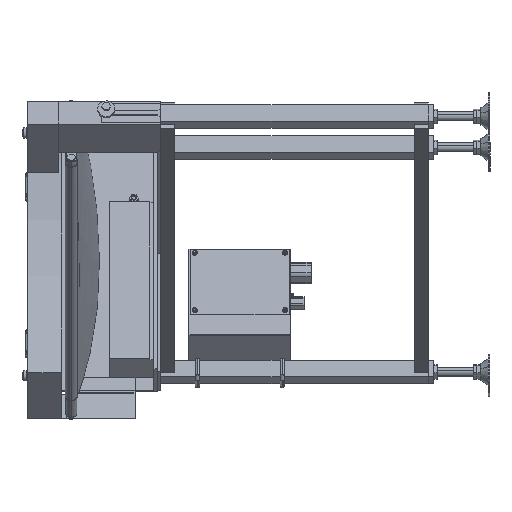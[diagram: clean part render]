
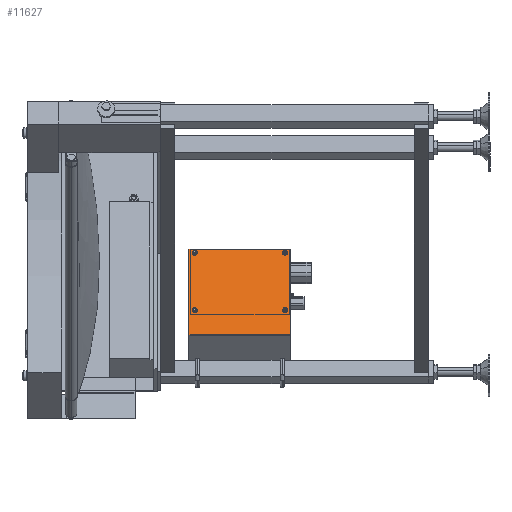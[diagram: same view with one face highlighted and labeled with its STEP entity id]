
A CAD part, left-side view. The second image highlights one B-rep face of the part: STEP entity #11627.
In plain terms, the highlighted planar face has unit normal (-0.924, 0, 0.383).
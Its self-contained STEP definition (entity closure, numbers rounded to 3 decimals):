
#353 = VERTEX_POINT ( 'NONE', #33025 ) ;
#985 = EDGE_CURVE ( 'NONE', #353, #18144, #11307, .T. ) ;
#1094 = CARTESIAN_POINT ( 'NONE',  ( 543.243, -397.5, -261.82 ) ) ;
#1557 = DIRECTION ( 'NONE',  ( 0.383, 0., 0.924 ) ) ;
#2436 = VERTEX_POINT ( 'NONE', #39671 ) ;
#2547 = FACE_BOUND ( 'NONE', #36860, .T. ) ;
#3030 = LINE ( 'NONE', #23860, #19925 ) ;
#3276 = ORIENTED_EDGE ( 'NONE', *, *, #30139, .T. ) ;
#4293 = VERTEX_POINT ( 'NONE', #20476 ) ;
#4422 = CARTESIAN_POINT ( 'NONE',  ( 498.277, -227.5, -370.376 ) ) ;
#4613 = EDGE_CURVE ( 'NONE', #12632, #15845, #38109, .T. ) ;
#5265 = AXIS2_PLACEMENT_3D ( 'NONE', #13578, #9214, #24244 ) ;
#5392 = DIRECTION ( 'NONE',  ( 0.924, 0., -0.383 ) ) ;
#5789 = EDGE_LOOP ( 'NONE', ( #38907, #42132 ) ) ;
#6060 = CIRCLE ( 'NONE', #10450, 4.5 ) ;
#6501 = DIRECTION ( 'NONE',  ( 0.924, 0., -0.383 ) ) ;
#7538 = CARTESIAN_POINT ( 'NONE',  ( 498.277, -387.5, -370.376 ) ) ;
#7996 = CARTESIAN_POINT ( 'NONE',  ( 500., -227.5, -366.218 ) ) ;
#8017 = EDGE_CURVE ( 'NONE', #18144, #353, #12421, .T. ) ;
#8134 = DIRECTION ( 'NONE',  ( 0.924, 0., -0.383 ) ) ;
#8480 = LINE ( 'NONE', #27434, #40782 ) ;
#9214 = DIRECTION ( 'NONE',  ( -0.924, 0., 0.383 ) ) ;
#9430 = ORIENTED_EDGE ( 'NONE', *, *, #20758, .T. ) ;
#9452 = DIRECTION ( 'NONE',  ( 0.924, 0., -0.383 ) ) ;
#9936 = AXIS2_PLACEMENT_3D ( 'NONE', #32355, #20866, #32040 ) ;
#10134 = VERTEX_POINT ( 'NONE', #44658 ) ;
#10450 = AXIS2_PLACEMENT_3D ( 'NONE', #7538, #47423, #14337 ) ;
#11307 = CIRCLE ( 'NONE', #27864, 4.5 ) ;
#11627 = ADVANCED_FACE ( 'NONE', ( #39026, #33263, #2547, #26895, #41340 ), #13261, .T. ) ;
#12109 = CARTESIAN_POINT ( 'NONE',  ( 542.095, -387.5, -264.592 ) ) ;
#12421 = CIRCLE ( 'NONE', #15334, 4.5 ) ;
#12503 = ORIENTED_EDGE ( 'NONE', *, *, #985, .T. ) ;
#12632 = VERTEX_POINT ( 'NONE', #45393 ) ;
#12830 = DIRECTION ( 'NONE',  ( -0.383, 0., -0.924 ) ) ;
#13261 = PLANE ( 'NONE',  #5265 ) ;
#13469 = DIRECTION ( 'NONE',  ( -0.383, 0., -0.924 ) ) ;
#13500 = DIRECTION ( 'NONE',  ( -0.383, 0., -0.924 ) ) ;
#13578 = CARTESIAN_POINT ( 'NONE',  ( 495.407, -397.5, -377.305 ) ) ;
#13776 = CIRCLE ( 'NONE', #36013, 4.5 ) ;
#14337 = DIRECTION ( 'NONE',  ( -0.383, 0., -0.924 ) ) ;
#15334 = AXIS2_PLACEMENT_3D ( 'NONE', #44690, #44535, #29872 ) ;
#15759 = LINE ( 'NONE', #35656, #21452 ) ;
#15845 = VERTEX_POINT ( 'NONE', #16748 ) ;
#15871 = AXIS2_PLACEMENT_3D ( 'NONE', #17493, #6501, #13469 ) ;
#16024 = EDGE_CURVE ( 'NONE', #12632, #33350, #15759, .T. ) ;
#16431 = VERTEX_POINT ( 'NONE', #22426 ) ;
#16602 = DIRECTION ( 'NONE',  ( 0., 1., 0. ) ) ;
#16748 = CARTESIAN_POINT ( 'NONE',  ( 480.1, -217.5, -414.26 ) ) ;
#17493 = CARTESIAN_POINT ( 'NONE',  ( 540.373, -227.5, -268.749 ) ) ;
#17973 = EDGE_CURVE ( 'NONE', #2436, #4293, #13776, .T. ) ;
#18075 = ORIENTED_EDGE ( 'NONE', *, *, #45378, .T. ) ;
#18144 = VERTEX_POINT ( 'NONE', #12109 ) ;
#19154 = AXIS2_PLACEMENT_3D ( 'NONE', #24175, #9452, #13500 ) ;
#19252 = ORIENTED_EDGE ( 'NONE', *, *, #8017, .T. ) ;
#19925 = VECTOR ( 'NONE', #16602, 1000. ) ;
#20476 = CARTESIAN_POINT ( 'NONE',  ( 496.555, -387.5, -374.533 ) ) ;
#20604 = EDGE_LOOP ( 'NONE', ( #33288, #40650, #45836, #22784 ) ) ;
#20758 = EDGE_CURVE ( 'NONE', #46197, #28576, #27148, .T. ) ;
#20866 = DIRECTION ( 'NONE',  ( 0.924, 0., -0.383 ) ) ;
#21452 = VECTOR ( 'NONE', #24623, 1000. ) ;
#22426 = CARTESIAN_POINT ( 'NONE',  ( 543.243, -217.5, -261.82 ) ) ;
#22448 = VECTOR ( 'NONE', #40979, 1000. ) ;
#22784 = ORIENTED_EDGE ( 'NONE', *, *, #16024, .T. ) ;
#23114 = CIRCLE ( 'NONE', #15871, 4.5 ) ;
#23860 = CARTESIAN_POINT ( 'NONE',  ( 543.243, -433.7, -261.82 ) ) ;
#24175 = CARTESIAN_POINT ( 'NONE',  ( 540.373, -227.5, -268.749 ) ) ;
#24244 = DIRECTION ( 'NONE',  ( 0.383, 0., 0.924 ) ) ;
#24623 = DIRECTION ( 'NONE',  ( 0.383, 0., 0.924 ) ) ;
#26895 = FACE_BOUND ( 'NONE', #44636, .T. ) ;
#27148 = CIRCLE ( 'NONE', #9936, 4.5 ) ;
#27434 = CARTESIAN_POINT ( 'NONE',  ( 495.407, -217.5, -377.305 ) ) ;
#27522 = CIRCLE ( 'NONE', #19154, 4.5 ) ;
#27690 = CARTESIAN_POINT ( 'NONE',  ( 542.095, -227.5, -264.592 ) ) ;
#27864 = AXIS2_PLACEMENT_3D ( 'NONE', #30795, #5392, #12830 ) ;
#28576 = VERTEX_POINT ( 'NONE', #7996 ) ;
#28780 = VERTEX_POINT ( 'NONE', #27690 ) ;
#29055 = DIRECTION ( 'NONE',  ( 0.924, 0., -0.383 ) ) ;
#29803 = DIRECTION ( 'NONE',  ( -0.383, 0., -0.924 ) ) ;
#29872 = DIRECTION ( 'NONE',  ( -0.383, 0., -0.924 ) ) ;
#30139 = EDGE_CURVE ( 'NONE', #28780, #10134, #27522, .T. ) ;
#30156 = CARTESIAN_POINT ( 'NONE',  ( 480.1, -562.424, -414.26 ) ) ;
#30795 = CARTESIAN_POINT ( 'NONE',  ( 540.373, -387.5, -268.749 ) ) ;
#30988 = EDGE_CURVE ( 'NONE', #15845, #16431, #8480, .T. ) ;
#31653 = CIRCLE ( 'NONE', #42025, 4.5 ) ;
#32040 = DIRECTION ( 'NONE',  ( -0.383, 0., -0.924 ) ) ;
#32355 = CARTESIAN_POINT ( 'NONE',  ( 498.277, -227.5, -370.376 ) ) ;
#33025 = CARTESIAN_POINT ( 'NONE',  ( 538.651, -387.5, -272.906 ) ) ;
#33263 = FACE_BOUND ( 'NONE', #5789, .T. ) ;
#33288 = ORIENTED_EDGE ( 'NONE', *, *, #36511, .T. ) ;
#33350 = VERTEX_POINT ( 'NONE', #1094 ) ;
#33958 = CARTESIAN_POINT ( 'NONE',  ( 496.555, -227.5, -374.533 ) ) ;
#35656 = CARTESIAN_POINT ( 'NONE',  ( 495.407, -397.5, -377.305 ) ) ;
#36013 = AXIS2_PLACEMENT_3D ( 'NONE', #43421, #29055, #47608 ) ;
#36511 = EDGE_CURVE ( 'NONE', #33350, #16431, #3030, .T. ) ;
#36860 = EDGE_LOOP ( 'NONE', ( #12503, #19252 ) ) ;
#38109 = LINE ( 'NONE', #30156, #22448 ) ;
#38907 = ORIENTED_EDGE ( 'NONE', *, *, #41425, .T. ) ;
#39026 = FACE_OUTER_BOUND ( 'NONE', #20604, .T. ) ;
#39671 = CARTESIAN_POINT ( 'NONE',  ( 500., -387.5, -366.218 ) ) ;
#40650 = ORIENTED_EDGE ( 'NONE', *, *, #30988, .F. ) ;
#40782 = VECTOR ( 'NONE', #1557, 1000. ) ;
#40979 = DIRECTION ( 'NONE',  ( 0., 1., 0. ) ) ;
#41340 = FACE_BOUND ( 'NONE', #43682, .T. ) ;
#41425 = EDGE_CURVE ( 'NONE', #4293, #2436, #6060, .T. ) ;
#41577 = ORIENTED_EDGE ( 'NONE', *, *, #46931, .T. ) ;
#42025 = AXIS2_PLACEMENT_3D ( 'NONE', #4422, #8134, #29803 ) ;
#42132 = ORIENTED_EDGE ( 'NONE', *, *, #17973, .T. ) ;
#43421 = CARTESIAN_POINT ( 'NONE',  ( 498.277, -387.5, -370.376 ) ) ;
#43682 = EDGE_LOOP ( 'NONE', ( #18075, #3276 ) ) ;
#44535 = DIRECTION ( 'NONE',  ( 0.924, 0., -0.383 ) ) ;
#44636 = EDGE_LOOP ( 'NONE', ( #9430, #41577 ) ) ;
#44658 = CARTESIAN_POINT ( 'NONE',  ( 538.651, -227.5, -272.906 ) ) ;
#44690 = CARTESIAN_POINT ( 'NONE',  ( 540.373, -387.5, -268.749 ) ) ;
#45378 = EDGE_CURVE ( 'NONE', #10134, #28780, #23114, .T. ) ;
#45393 = CARTESIAN_POINT ( 'NONE',  ( 480.1, -397.5, -414.26 ) ) ;
#45836 = ORIENTED_EDGE ( 'NONE', *, *, #4613, .F. ) ;
#46197 = VERTEX_POINT ( 'NONE', #33958 ) ;
#46931 = EDGE_CURVE ( 'NONE', #28576, #46197, #31653, .T. ) ;
#47423 = DIRECTION ( 'NONE',  ( 0.924, 0., -0.383 ) ) ;
#47608 = DIRECTION ( 'NONE',  ( -0.383, 0., -0.924 ) ) ;
